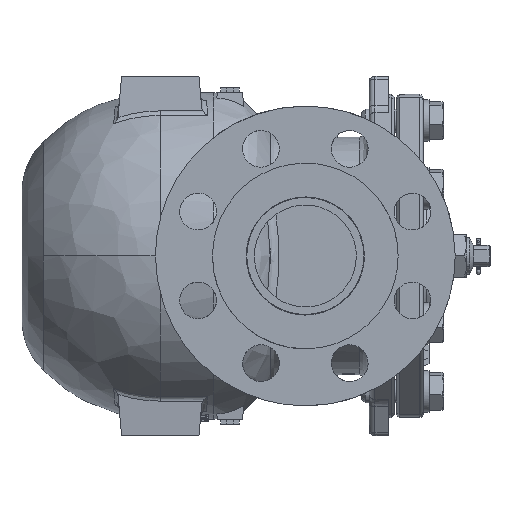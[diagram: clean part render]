
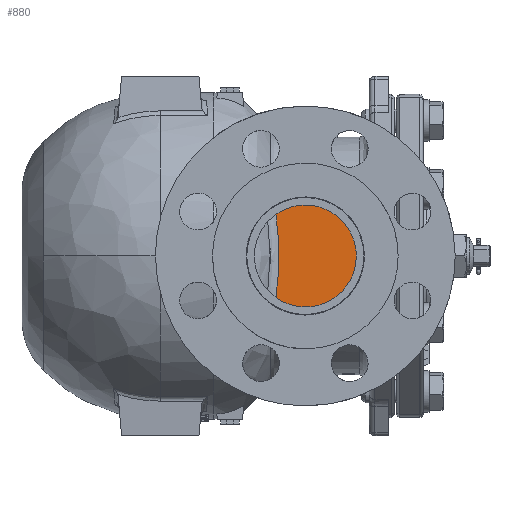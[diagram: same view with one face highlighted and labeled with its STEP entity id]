
A CAD part, left-side view. The second image highlights one B-rep face of the part: STEP entity #880.
In plain terms, the highlighted planar face has unit normal (-1, 0, 0) as drawn and (0, 1, 0) by its records, which use the part's own axes.
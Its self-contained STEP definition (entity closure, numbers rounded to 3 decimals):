
#880=ADVANCED_FACE('',(#4394),#4393,.T.);
#4393=PLANE('',#12645);
#4394=FACE_OUTER_BOUND('',#12646,.T.);
#12642=CARTESIAN_POINT('',(-110.087,61.5,-36.58));
#12643=DIRECTION('',(0.,1.,0.));
#12644=DIRECTION('',(0.,0.,1.));
#12645=AXIS2_PLACEMENT_3D('',#12642,#12643,#12644);
#12646=EDGE_LOOP('',(#20439,#20440,#20441,#20442,#20443,#20444,#20445,#20446,#20447));
#20439=ORIENTED_EDGE('',*,*,#24908,.T.);
#20440=ORIENTED_EDGE('',*,*,#24144,.T.);
#20441=ORIENTED_EDGE('',*,*,#24909,.F.);
#20442=ORIENTED_EDGE('',*,*,#24910,.F.);
#20443=ORIENTED_EDGE('',*,*,#24911,.F.);
#20444=ORIENTED_EDGE('',*,*,#24912,.F.);
#20445=ORIENTED_EDGE('',*,*,#24913,.F.);
#20446=ORIENTED_EDGE('',*,*,#24914,.F.);
#20447=ORIENTED_EDGE('',*,*,#24150,.T.);
#24144=EDGE_CURVE('',#28359,#28351,#28360,.T.);
#24150=EDGE_CURVE('',#28380,#28394,#28401,.T.);
#24908=EDGE_CURVE('',#28394,#28359,#33465,.T.);
#24909=EDGE_CURVE('',#33471,#28351,#33472,.T.);
#24910=EDGE_CURVE('',#33478,#33471,#33479,.T.);
#24911=EDGE_CURVE('',#33485,#33478,#33486,.T.);
#24912=EDGE_CURVE('',#33492,#33485,#33493,.T.);
#24913=EDGE_CURVE('',#33499,#33492,#33500,.T.);
#24914=EDGE_CURVE('',#28380,#33499,#33506,.T.);
#28351=VERTEX_POINT('',#45813);
#28359=VERTEX_POINT('',#45822);
#28360=(BOUNDED_CURVE() B_SPLINE_CURVE(3,(#45823,#45824,#45825,#45826,#45827,#45828),.UNSPECIFIED.,.F.,.F.) B_SPLINE_CURVE_WITH_KNOTS((4,1,1,4),(0.,5.947,10.002,17.3),.UNSPECIFIED.) CURVE() GEOMETRIC_REPRESENTATION_ITEM() RATIONAL_B_SPLINE_CURVE((1.,1.,1.,1.,1.,1.)) REPRESENTATION_ITEM('') );
#28380=VERTEX_POINT('',#45844);
#28394=VERTEX_POINT('',#45859);
#28401=(BOUNDED_CURVE() B_SPLINE_CURVE(3,(#45864,#45865,#45866,#45867,#45868,#45869),.UNSPECIFIED.,.F.,.F.) B_SPLINE_CURVE_WITH_KNOTS((4,1,1,4),(0.,7.569,12.705,17.3),.UNSPECIFIED.) CURVE() GEOMETRIC_REPRESENTATION_ITEM() RATIONAL_B_SPLINE_CURVE((1.,1.,1.,1.,1.,1.)) REPRESENTATION_ITEM('') );
#33465=(BOUNDED_CURVE() B_SPLINE_CURVE(3,(#52080,#52081,#52082,#52083,#52084,#52085,#52086,#52087,#52088,#52089),.UNSPECIFIED.,.F.,.F.) B_SPLINE_CURVE_WITH_KNOTS((4,2,2,2,4),(0.,0.25,0.5,0.75,1.),.UNSPECIFIED.) CURVE() GEOMETRIC_REPRESENTATION_ITEM() RATIONAL_B_SPLINE_CURVE((1.,1.,1.,1.,1.,1.,1.,1.,1.,1.)) REPRESENTATION_ITEM('') );
#33471=VERTEX_POINT('',#52090);
#33472=LINE('',#52091,#52092);
#33478=VERTEX_POINT('',#52094);
#33479=(BOUNDED_CURVE() B_SPLINE_CURVE(3,(#52095,#52096,#52097,#52098,#52099,#52100,#52101,#52102),.UNSPECIFIED.,.F.,.F.) B_SPLINE_CURVE_WITH_KNOTS((4,1,1,1,1,4),(23.835,27.852,33.716,36.648,41.779,46.909),.UNSPECIFIED.) CURVE() GEOMETRIC_REPRESENTATION_ITEM() RATIONAL_B_SPLINE_CURVE((1.,1.,1.,1.,1.,1.,1.,1.)) REPRESENTATION_ITEM('') );
#33485=VERTEX_POINT('',#52103);
#33486=(BOUNDED_CURVE() B_SPLINE_CURVE(3,(#52104,#52105,#52106,#52107,#52108,#52109,#52110),.UNSPECIFIED.,.F.,.F.) B_SPLINE_CURVE_WITH_KNOTS((4,1,1,1,4),(0.,8.429,15.759,21.256,23.835),.UNSPECIFIED.) CURVE() GEOMETRIC_REPRESENTATION_ITEM() RATIONAL_B_SPLINE_CURVE((1.,1.,1.,1.,1.,1.,1.)) REPRESENTATION_ITEM('') );
#33492=VERTEX_POINT('',#52111);
#33493=(BOUNDED_CURVE() B_SPLINE_CURVE(3,(#52112,#52113,#52114,#52115,#52116,#52117,#52118),.UNSPECIFIED.,.F.,.F.) B_SPLINE_CURVE_WITH_KNOTS((4,1,1,1,4),(0.,6.794,10.191,15.475,24.156),.UNSPECIFIED.) CURVE() GEOMETRIC_REPRESENTATION_ITEM() RATIONAL_B_SPLINE_CURVE((1.,1.,1.,1.,1.,1.,1.)) REPRESENTATION_ITEM('') );
#33499=VERTEX_POINT('',#52119);
#33500=(BOUNDED_CURVE() B_SPLINE_CURVE(3,(#52120,#52121,#52122,#52123,#52124,#52125,#52126),.UNSPECIFIED.,.F.,.F.) B_SPLINE_CURVE_WITH_KNOTS((4,1,1,1,4),(0.,8.177,12.798,18.131,22.753),.UNSPECIFIED.) CURVE() GEOMETRIC_REPRESENTATION_ITEM() RATIONAL_B_SPLINE_CURVE((1.,1.,1.,1.,1.,1.,1.)) REPRESENTATION_ITEM('') );
#33506=LINE('',#52127,#52128);
#45813=CARTESIAN_POINT('',(-76.,61.5,-27.482));
#45822=CARTESIAN_POINT('',(-59.638,61.5,-22.809));
#45823=CARTESIAN_POINT('',(-59.638,61.5,-22.809));
#45824=CARTESIAN_POINT('',(-61.282,61.5,-23.917));
#45825=CARTESIAN_POINT('',(-64.25,61.5,-25.478));
#45826=CARTESIAN_POINT('',(-69.769,61.5,-27.203));
#45827=CARTESIAN_POINT('',(-73.569,61.5,-27.571));
#45828=CARTESIAN_POINT('',(-76.,61.5,-27.482));
#45844=CARTESIAN_POINT('',(-76.,61.5,27.482));
#45859=CARTESIAN_POINT('',(-59.638,61.5,22.809));
#45864=CARTESIAN_POINT('',(-76.,61.5,27.482));
#45865=CARTESIAN_POINT('',(-73.479,61.5,27.574));
#45866=CARTESIAN_POINT('',(-69.226,61.5,27.141));
#45867=CARTESIAN_POINT('',(-63.751,61.5,25.252));
#45868=CARTESIAN_POINT('',(-60.909,61.5,23.665));
#45869=CARTESIAN_POINT('',(-59.638,61.5,22.809));
#52080=CARTESIAN_POINT('',(-59.638,61.5,22.809));
#52081=CARTESIAN_POINT('',(-60.293,61.5,19.061));
#52082=CARTESIAN_POINT('',(-60.726,61.5,15.26));
#52083=CARTESIAN_POINT('',(-61.287,61.5,7.614));
#52084=CARTESIAN_POINT('',(-61.413,61.5,3.785));
#52085=CARTESIAN_POINT('',(-61.411,61.5,-3.883));
#52086=CARTESIAN_POINT('',(-61.282,61.5,-7.699));
#52087=CARTESIAN_POINT('',(-60.723,61.5,-15.29));
#52088=CARTESIAN_POINT('',(-60.292,61.5,-19.065));
#52089=CARTESIAN_POINT('',(-59.638,61.5,-22.809));
#52090=CARTESIAN_POINT('',(-76.,61.5,-30.484));
#52091=CARTESIAN_POINT('',(-76.,61.5,-30.484));
#52092=VECTOR('',#52093,3.002);
#52093=DIRECTION('',(0.,0.,1.));
#52094=CARTESIAN_POINT('',(-96.651,61.5,-21.482));
#52095=CARTESIAN_POINT('',(-96.651,61.5,-21.482));
#52096=CARTESIAN_POINT('',(-95.708,61.5,-22.432));
#52097=CARTESIAN_POINT('',(-93.234,61.5,-24.618));
#52098=CARTESIAN_POINT('',(-89.602,61.5,-26.902));
#52099=CARTESIAN_POINT('',(-85.354,61.5,-28.786));
#52100=CARTESIAN_POINT('',(-81.118,61.5,-30.027));
#52101=CARTESIAN_POINT('',(-77.709,61.5,-30.428));
#52102=CARTESIAN_POINT('',(-76.,61.5,-30.484));
#52103=CARTESIAN_POINT('',(-105.5,61.5,0.));
#52104=CARTESIAN_POINT('',(-105.5,61.5,0.));
#52105=CARTESIAN_POINT('',(-105.501,61.5,-2.81));
#52106=CARTESIAN_POINT('',(-104.769,61.5,-8.062));
#52107=CARTESIAN_POINT('',(-102.013,61.5,-14.645));
#52108=CARTESIAN_POINT('',(-99.072,61.5,-18.881));
#52109=CARTESIAN_POINT('',(-97.257,61.5,-20.872));
#52110=CARTESIAN_POINT('',(-96.651,61.5,-21.482));
#52111=CARTESIAN_POINT('',(-96.424,61.5,21.709));
#52112=CARTESIAN_POINT('',(-96.424,61.5,21.709));
#52113=CARTESIAN_POINT('',(-98.036,61.5,20.118));
#52114=CARTESIAN_POINT('',(-100.186,61.5,17.462));
#52115=CARTESIAN_POINT('',(-102.724,61.5,12.962));
#52116=CARTESIAN_POINT('',(-104.832,61.5,7.548));
#52117=CARTESIAN_POINT('',(-105.501,61.5,2.894));
#52118=CARTESIAN_POINT('',(-105.5,61.5,0.));
#52119=CARTESIAN_POINT('',(-76.,61.5,30.484));
#52120=CARTESIAN_POINT('',(-76.,61.5,30.484));
#52121=CARTESIAN_POINT('',(-78.724,61.5,30.395));
#52122=CARTESIAN_POINT('',(-82.969,61.5,29.679));
#52123=CARTESIAN_POINT('',(-88.605,61.5,27.449));
#52124=CARTESIAN_POINT('',(-92.789,61.5,24.942));
#52125=CARTESIAN_POINT('',(-95.327,61.5,22.791));
#52126=CARTESIAN_POINT('',(-96.424,61.5,21.709));
#52127=CARTESIAN_POINT('',(-76.,61.5,27.482));
#52128=VECTOR('',#52129,3.002);
#52129=DIRECTION('',(0.,0.,1.));
